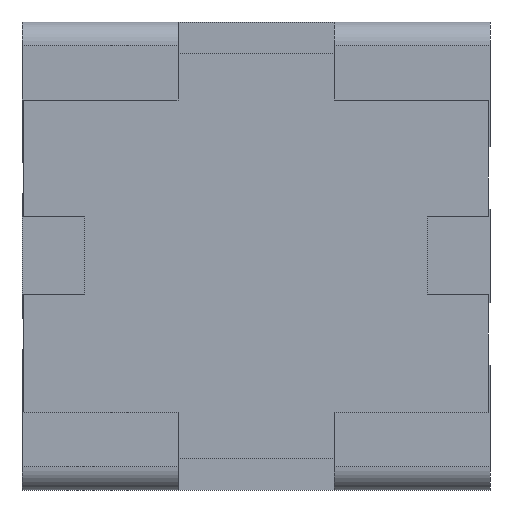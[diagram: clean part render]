
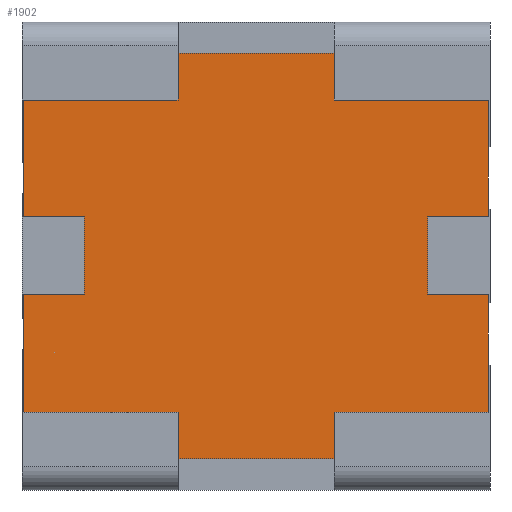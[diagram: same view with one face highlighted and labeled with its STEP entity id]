
A CAD part, front view. The second image highlights one B-rep face of the part: STEP entity #1902.
In plain terms, the highlighted planar face has unit normal (0, -1, 0).
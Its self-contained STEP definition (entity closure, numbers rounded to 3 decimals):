
#420=DIRECTION('',(0.,0.,-1.));
#421=VECTOR('',#420,0.75);
#422=CARTESIAN_POINT('',(-1.49,0.15,-0.25));
#423=LINE('',#422,#421);
#448=DIRECTION('',(0.,0.,-1.));
#449=VECTOR('',#448,0.75);
#450=CARTESIAN_POINT('',(-1.49,0.15,1.));
#451=LINE('',#450,#449);
#468=DIRECTION('',(-1.,0.,0.));
#469=VECTOR('',#468,0.39);
#470=CARTESIAN_POINT('',(1.49,0.15,-0.25));
#471=LINE('',#470,#469);
#472=DIRECTION('',(-1.,0.,0.));
#473=VECTOR('',#472,0.99);
#474=CARTESIAN_POINT('',(1.49,0.15,-1.));
#475=LINE('',#474,#473);
#476=DIRECTION('',(0.,0.,-1.));
#477=VECTOR('',#476,0.3);
#478=CARTESIAN_POINT('',(0.5,0.15,-1.));
#479=LINE('',#478,#477);
#480=DIRECTION('',(1.,0.,0.));
#481=VECTOR('',#480,1.);
#482=CARTESIAN_POINT('',(-0.5,0.15,-1.3));
#483=LINE('',#482,#481);
#484=DIRECTION('',(0.,0.,1.));
#485=VECTOR('',#484,0.3);
#486=CARTESIAN_POINT('',(-0.5,0.15,-1.3));
#487=LINE('',#486,#485);
#488=DIRECTION('',(-1.,0.,0.));
#489=VECTOR('',#488,0.99);
#490=CARTESIAN_POINT('',(-0.5,0.15,-1.));
#491=LINE('',#490,#489);
#492=DIRECTION('',(1.,0.,0.));
#493=VECTOR('',#492,0.39);
#494=CARTESIAN_POINT('',(-1.49,0.15,-0.25));
#495=LINE('',#494,#493);
#496=DIRECTION('',(0.,0.,1.));
#497=VECTOR('',#496,0.5);
#498=CARTESIAN_POINT('',(-1.1,0.15,-0.25));
#499=LINE('',#498,#497);
#500=DIRECTION('',(1.,0.,0.));
#501=VECTOR('',#500,0.39);
#502=CARTESIAN_POINT('',(-1.49,0.15,0.25));
#503=LINE('',#502,#501);
#504=DIRECTION('',(-1.,0.,0.));
#505=VECTOR('',#504,0.99);
#506=CARTESIAN_POINT('',(-0.5,0.15,1.));
#507=LINE('',#506,#505);
#508=DIRECTION('',(0.,0.,-1.));
#509=VECTOR('',#508,0.3);
#510=CARTESIAN_POINT('',(-0.5,0.15,1.3));
#511=LINE('',#510,#509);
#512=DIRECTION('',(1.,0.,0.));
#513=VECTOR('',#512,1.);
#514=CARTESIAN_POINT('',(-0.5,0.15,1.3));
#515=LINE('',#514,#513);
#516=DIRECTION('',(0.,0.,1.));
#517=VECTOR('',#516,0.3);
#518=CARTESIAN_POINT('',(0.5,0.15,1.));
#519=LINE('',#518,#517);
#520=DIRECTION('',(-1.,0.,0.));
#521=VECTOR('',#520,0.99);
#522=CARTESIAN_POINT('',(1.49,0.15,1.));
#523=LINE('',#522,#521);
#524=DIRECTION('',(-1.,0.,0.));
#525=VECTOR('',#524,0.39);
#526=CARTESIAN_POINT('',(1.49,0.15,0.25));
#527=LINE('',#526,#525);
#528=DIRECTION('',(0.,0.,1.));
#529=VECTOR('',#528,0.5);
#530=CARTESIAN_POINT('',(1.1,0.15,-0.25));
#531=LINE('',#530,#529);
#560=DIRECTION('',(0.,0.,1.));
#561=VECTOR('',#560,0.75);
#562=CARTESIAN_POINT('',(1.49,0.15,0.25));
#563=LINE('',#562,#561);
#588=DIRECTION('',(0.,0.,1.));
#589=VECTOR('',#588,0.75);
#590=CARTESIAN_POINT('',(1.49,0.15,-1.));
#591=LINE('',#590,#589);
#977=CARTESIAN_POINT('',(-0.5,0.15,1.));
#978=VERTEX_POINT('',#977);
#979=CARTESIAN_POINT('',(0.5,0.15,1.));
#980=VERTEX_POINT('',#979);
#985=CARTESIAN_POINT('',(-0.5,0.15,1.3));
#986=CARTESIAN_POINT('',(0.5,0.15,1.3));
#987=VERTEX_POINT('',#985);
#988=VERTEX_POINT('',#986);
#1011=CARTESIAN_POINT('',(-1.49,0.15,1.));
#1012=VERTEX_POINT('',#1011);
#1031=CARTESIAN_POINT('',(1.49,0.15,1.));
#1032=VERTEX_POINT('',#1031);
#1057=CARTESIAN_POINT('',(-0.5,0.15,-1.));
#1058=VERTEX_POINT('',#1057);
#1059=CARTESIAN_POINT('',(0.5,0.15,-1.));
#1060=VERTEX_POINT('',#1059);
#1065=CARTESIAN_POINT('',(-0.5,0.15,-1.3));
#1066=CARTESIAN_POINT('',(0.5,0.15,-1.3));
#1067=VERTEX_POINT('',#1065);
#1068=VERTEX_POINT('',#1066);
#1085=CARTESIAN_POINT('',(-1.49,0.15,-1.));
#1086=VERTEX_POINT('',#1085);
#1105=CARTESIAN_POINT('',(1.49,0.15,-1.));
#1106=VERTEX_POINT('',#1105);
#1125=CARTESIAN_POINT('',(-1.49,0.15,-0.25));
#1126=CARTESIAN_POINT('',(-1.1,0.15,-0.25));
#1127=VERTEX_POINT('',#1125);
#1128=VERTEX_POINT('',#1126);
#1129=CARTESIAN_POINT('',(-1.1,0.15,0.25));
#1130=VERTEX_POINT('',#1129);
#1131=CARTESIAN_POINT('',(-1.49,0.15,0.25));
#1132=VERTEX_POINT('',#1131);
#1145=CARTESIAN_POINT('',(1.49,0.15,-0.25));
#1146=CARTESIAN_POINT('',(1.1,0.15,-0.25));
#1147=VERTEX_POINT('',#1145);
#1148=VERTEX_POINT('',#1146);
#1149=CARTESIAN_POINT('',(1.1,0.15,0.25));
#1150=VERTEX_POINT('',#1149);
#1151=CARTESIAN_POINT('',(1.49,0.15,0.25));
#1152=VERTEX_POINT('',#1151);
#1858=CARTESIAN_POINT('',(0.,0.15,0.));
#1859=DIRECTION('',(0.,-1.,0.));
#1860=DIRECTION('',(1.,0.,0.));
#1861=AXIS2_PLACEMENT_3D('',#1858,#1859,#1860);
#1862=PLANE('',#1861);
#1864=ORIENTED_EDGE('',*,*,#1863,.F.);
#1866=ORIENTED_EDGE('',*,*,#1865,.F.);
#1868=ORIENTED_EDGE('',*,*,#1867,.T.);
#1870=ORIENTED_EDGE('',*,*,#1869,.T.);
#1872=ORIENTED_EDGE('',*,*,#1871,.F.);
#1874=ORIENTED_EDGE('',*,*,#1873,.T.);
#1876=ORIENTED_EDGE('',*,*,#1875,.T.);
#1877=ORIENTED_EDGE('',*,*,#1805,.F.);
#1879=ORIENTED_EDGE('',*,*,#1878,.T.);
#1881=ORIENTED_EDGE('',*,*,#1880,.T.);
#1882=ORIENTED_EDGE('',*,*,#1846,.F.);
#1883=ORIENTED_EDGE('',*,*,#1821,.F.);
#1885=ORIENTED_EDGE('',*,*,#1884,.F.);
#1887=ORIENTED_EDGE('',*,*,#1886,.F.);
#1889=ORIENTED_EDGE('',*,*,#1888,.T.);
#1891=ORIENTED_EDGE('',*,*,#1890,.F.);
#1893=ORIENTED_EDGE('',*,*,#1892,.F.);
#1895=ORIENTED_EDGE('',*,*,#1894,.F.);
#1897=ORIENTED_EDGE('',*,*,#1896,.T.);
#1899=ORIENTED_EDGE('',*,*,#1898,.F.);
#1900=EDGE_LOOP('',(#1864,#1866,#1868,#1870,#1872,#1874,#1876,#1877,#1879,#1881,
#1882,#1883,#1885,#1887,#1889,#1891,#1893,#1895,#1897,#1899));
#1901=FACE_OUTER_BOUND('',#1900,.F.);
#1902=ADVANCED_FACE('',(#1901),#1862,.T.);
#1805=EDGE_CURVE('',#1127,#1086,#423,.T.);
#1821=EDGE_CURVE('',#1012,#1132,#451,.T.);
#1846=EDGE_CURVE('',#1132,#1130,#503,.T.);
#1863=EDGE_CURVE('',#1147,#1148,#471,.T.);
#1865=EDGE_CURVE('',#1106,#1147,#591,.T.);
#1867=EDGE_CURVE('',#1106,#1060,#475,.T.);
#1869=EDGE_CURVE('',#1060,#1068,#479,.T.);
#1871=EDGE_CURVE('',#1067,#1068,#483,.T.);
#1873=EDGE_CURVE('',#1067,#1058,#487,.T.);
#1875=EDGE_CURVE('',#1058,#1086,#491,.T.);
#1878=EDGE_CURVE('',#1127,#1128,#495,.T.);
#1880=EDGE_CURVE('',#1128,#1130,#499,.T.);
#1884=EDGE_CURVE('',#978,#1012,#507,.T.);
#1886=EDGE_CURVE('',#987,#978,#511,.T.);
#1888=EDGE_CURVE('',#987,#988,#515,.T.);
#1890=EDGE_CURVE('',#980,#988,#519,.T.);
#1892=EDGE_CURVE('',#1032,#980,#523,.T.);
#1894=EDGE_CURVE('',#1152,#1032,#563,.T.);
#1896=EDGE_CURVE('',#1152,#1150,#527,.T.);
#1898=EDGE_CURVE('',#1148,#1150,#531,.T.);
